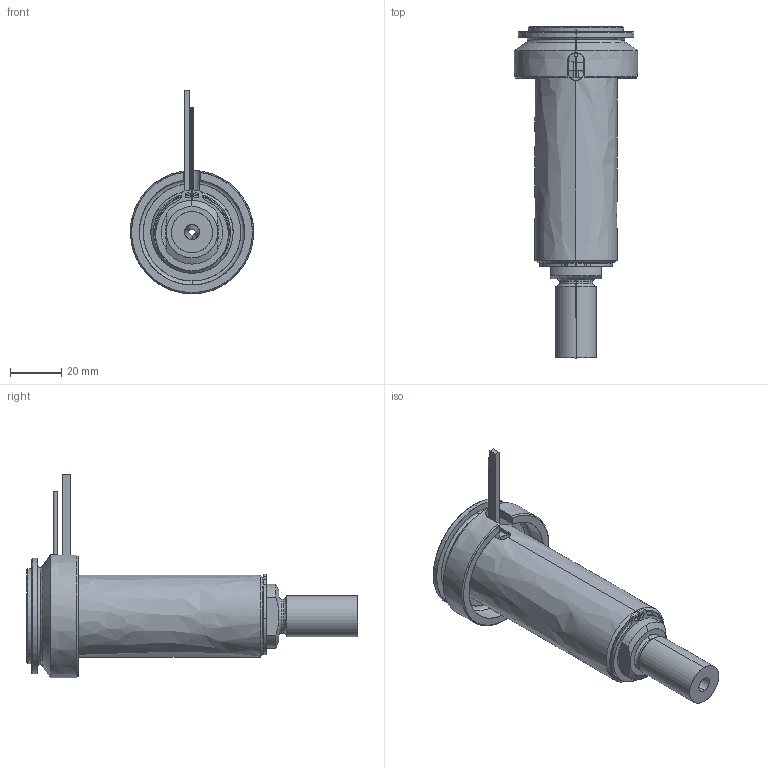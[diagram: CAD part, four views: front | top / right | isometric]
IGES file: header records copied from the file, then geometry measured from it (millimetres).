
Start section: SolidWorks IGES file using analytic representation for surfaces
Global section: file name: C:\Documents and Settings\ws-20\Desktop\TEMPORANEA\UGBE5002-M-A-P-3 [Ød-2.5 P-25 ØC-13].IGS; native system: SolidWorks 2012; preprocessor: SolidWorks 2012; author: ws-20; date: 120306.161726; units: millimetre
Bounding box: 48 x 129.25 x 79.3 mm (x, y, z)
Surface area: 41097.4 mm2 (no closed solid volume)
Topology: 0 solids, 0 shells, 111 faces, 2054 edges, 2054 vertices
Faces by surface type: revolution 64, bspline 47
